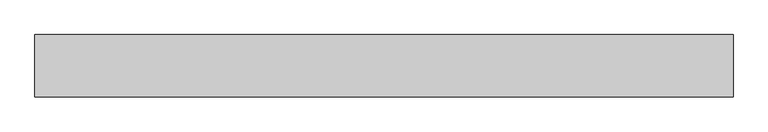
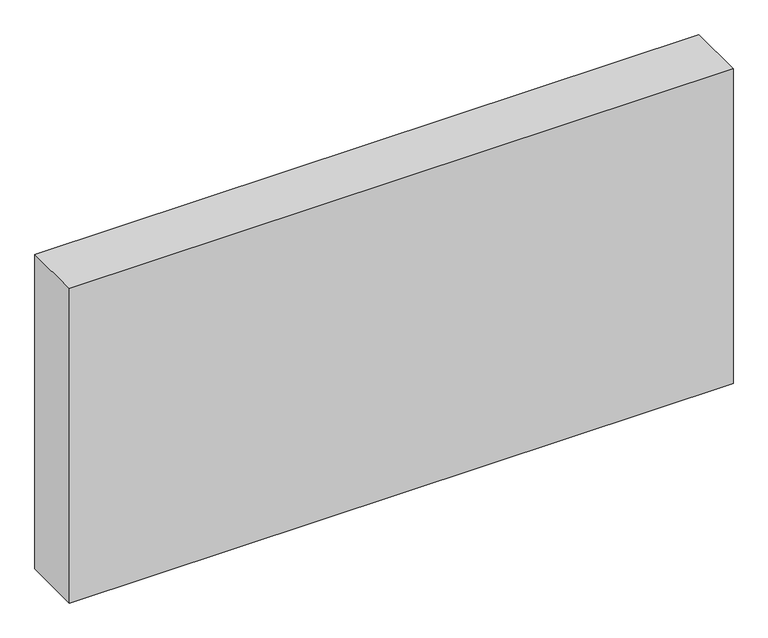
"""IFC4 building model written with IfcOpenShell, lengths in millimetres: plate geometry, Пустая системная панель : Пустая системная панель."""

from ifc_helpers import new_model, si_unit, origin, origin_with_axes, place, context, project, spatial, polyline, outline, extrude, source, transform, mapped, element, save


def plate_8f87cec8(model_context):
    return source(origin(), model_context, "Body", "SweptSolid", [
        extrude(outline(polyline([(558.75, -50.0), (-558.75, -50.0), (-558.75, 50.0), (558.75, 50.0), (558.75, -50.0)])), origin_with_axes(), (0.0, 0.0, 1.0), 560.0),
    ])


if __name__ == "__main__":
    model = new_model("IFC4")
    model_context = context("Model", 3, world=origin())
    ifc_project = project(units=[si_unit("LENGTHUNIT", "METRE", prefix="MILLI")], contexts=[model_context])
    site = spatial("IfcSite", under=ifc_project)
    building = spatial("IfcBuilding", under=site)
    placement = place(None, origin())
    plate_shape = plate_8f87cec8(model_context)
    element("IfcPlate", 1, ObjectType="Пустая системная панель : Пустая системная панель", at=placement, inside=building, context=model_context, shape_type="MappedRepresentation", body=[
        mapped(plate_shape, transform((0.0, 0.0, 0.0), x_axis=(1.0, 0.0, 0.0), y_axis=(0.0, 1.0, 0.0), z_axis=(0.0, 0.0, 1.0))),
    ])
    save(model, "model.ifc")
